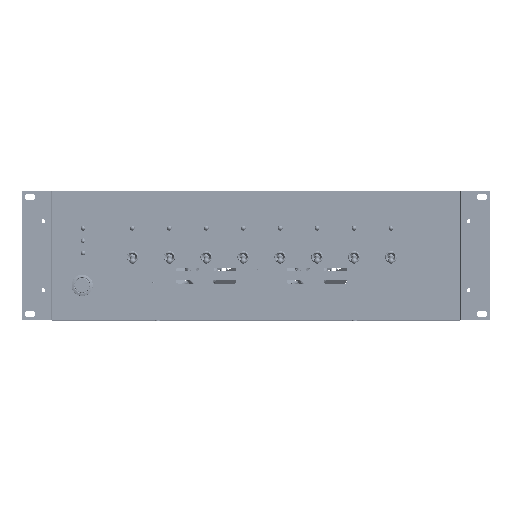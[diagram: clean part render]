
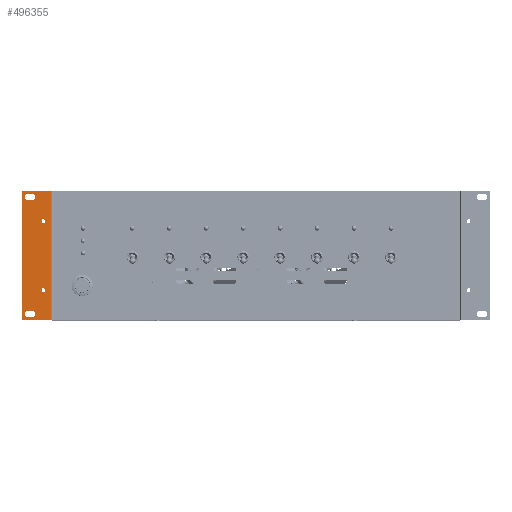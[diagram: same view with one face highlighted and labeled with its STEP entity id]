
A CAD part, top view. The second image highlights one B-rep face of the part: STEP entity #496355.
In plain terms, the highlighted planar face has unit normal (0, 0, 1).
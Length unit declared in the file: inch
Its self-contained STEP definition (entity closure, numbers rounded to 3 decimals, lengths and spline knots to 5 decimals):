
#1453 = EDGE_CURVE ( 'NONE', #296833, #418912, #98120, .T. ) ;
#23597 = CARTESIAN_POINT ( 'NONE',  ( -0.96102, 0.10357, 18. ) ) ;
#24363 = FACE_BOUND ( 'NONE', #624766, .T. ) ;
#29772 = VERTEX_POINT ( 'NONE', #719458 ) ;
#34951 = EDGE_CURVE ( 'NONE', #296833, #29772, #422895, .T. ) ;
#39915 = AXIS2_PLACEMENT_3D ( 'NONE', #510719, #514385, #672356 ) ;
#50973 = CARTESIAN_POINT ( 'NONE',  ( -0.2515, 4.00357, 18. ) ) ;
#54604 = VERTEX_POINT ( 'NONE', #50973 ) ;
#66824 = AXIS2_PLACEMENT_3D ( 'NONE', #169482, #393370, #114310 ) ;
#67360 = VECTOR ( 'NONE', #367865, 39.37008 ) ;
#76664 = CARTESIAN_POINT ( 'NONE',  ( -0.96102, 0.35357, 18. ) ) ;
#78922 = ORIENTED_EDGE ( 'NONE', *, *, #701674, .T. ) ;
#79731 = VECTOR ( 'NONE', #265751, 39.37008 ) ;
#82334 = LINE ( 'NONE', #258566, #79731 ) ;
#87567 = LINE ( 'NONE', #76664, #718888 ) ;
#93422 = AXIS2_PLACEMENT_3D ( 'NONE', #211691, #145540, #597109 ) ;
#93913 = CARTESIAN_POINT ( 'NONE',  ( -0.03937, -0.00643, 18. ) ) ;
#96985 = DIRECTION ( 'NONE',  ( 1., 0., 0. ) ) ;
#98120 = LINE ( 'NONE', #608399, #493169 ) ;
#105351 = DIRECTION ( 'NONE',  ( 1., 0., 0. ) ) ;
#113903 = ORIENTED_EDGE ( 'NONE', *, *, #363487, .T. ) ;
#114310 = DIRECTION ( 'NONE',  ( 1., 0., 0. ) ) ;
#123418 = CARTESIAN_POINT ( 'NONE',  ( -0.96102, 0.22857, 18. ) ) ;
#132698 = CARTESIAN_POINT ( 'NONE',  ( -0.78898, 4.85357, 18. ) ) ;
#140611 = LINE ( 'NONE', #309487, #435124 ) ;
#141095 = CARTESIAN_POINT ( 'NONE',  ( -0.96102, 0.35357, 18. ) ) ;
#145540 = DIRECTION ( 'NONE',  ( 0., 0., -1. ) ) ;
#155032 = VERTEX_POINT ( 'NONE', #23597 ) ;
#163444 = EDGE_CURVE ( 'NONE', #283123, #348737, #82334, .T. ) ;
#164906 = VECTOR ( 'NONE', #603970, 39.37008 ) ;
#167426 = ORIENTED_EDGE ( 'NONE', *, *, #280792, .F. ) ;
#169482 = CARTESIAN_POINT ( 'NONE',  ( -0.33, 1.20357, 18. ) ) ;
#189822 = FACE_OUTER_BOUND ( 'NONE', #459916, .T. ) ;
#193652 = VERTEX_POINT ( 'NONE', #268407 ) ;
#198322 = VERTEX_POINT ( 'NONE', #257420 ) ;
#201277 = ORIENTED_EDGE ( 'NONE', *, *, #320977, .T. ) ;
#211691 = CARTESIAN_POINT ( 'NONE',  ( -0.78898, 0.22857, 18. ) ) ;
#239084 = CARTESIAN_POINT ( 'NONE',  ( -0.78898, 5.10357, 18. ) ) ;
#243833 = EDGE_CURVE ( 'NONE', #198322, #655003, #562431, .T. ) ;
#243948 = CARTESIAN_POINT ( 'NONE',  ( -0.96102, 4.97857, 18. ) ) ;
#257420 = CARTESIAN_POINT ( 'NONE',  ( -0.78898, 0.35357, 18. ) ) ;
#258566 = CARTESIAN_POINT ( 'NONE',  ( -0.78898, 4.85357, 18. ) ) ;
#265751 = DIRECTION ( 'NONE',  ( -1., 0., 0. ) ) ;
#266198 = CARTESIAN_POINT ( 'NONE',  ( -1.2, -0.00643, 18. ) ) ;
#267732 = EDGE_CURVE ( 'NONE', #348737, #193652, #384331, .T. ) ;
#268407 = CARTESIAN_POINT ( 'NONE',  ( -0.96102, 5.10357, 18. ) ) ;
#268765 = ORIENTED_EDGE ( 'NONE', *, *, #680568, .T. ) ;
#272824 = ORIENTED_EDGE ( 'NONE', *, *, #609365, .T. ) ;
#276662 = EDGE_CURVE ( 'NONE', #718977, #718977, #383400, .T. ) ;
#280792 = EDGE_CURVE ( 'NONE', #418912, #309960, #140611, .T. ) ;
#283123 = VERTEX_POINT ( 'NONE', #132698 ) ;
#296833 = VERTEX_POINT ( 'NONE', #596436 ) ;
#302592 = DIRECTION ( 'NONE',  ( 0., 0., -1. ) ) ;
#309487 = CARTESIAN_POINT ( 'NONE',  ( -0.03937, 5.21357, 18. ) ) ;
#309960 = VERTEX_POINT ( 'NONE', #93913 ) ;
#313535 = LINE ( 'NONE', #530251, #522928 ) ;
#315135 = EDGE_LOOP ( 'NONE', ( #393453 ) ) ;
#317706 = EDGE_LOOP ( 'NONE', ( #431527, #78922, #685625, #515505 ) ) ;
#320977 = EDGE_CURVE ( 'NONE', #655003, #155032, #702916, .T. ) ;
#325122 = DIRECTION ( 'NONE',  ( 0., 1., 0. ) ) ;
#348737 = VERTEX_POINT ( 'NONE', #635612 ) ;
#349610 = CARTESIAN_POINT ( 'NONE',  ( -0.78898, 0.10357, 18. ) ) ;
#359322 = DIRECTION ( 'NONE',  ( 1., 0., 0. ) ) ;
#363487 = EDGE_CURVE ( 'NONE', #597992, #198322, #87567, .T. ) ;
#367865 = DIRECTION ( 'NONE',  ( 0., -1., 0. ) ) ;
#369306 = VECTOR ( 'NONE', #596426, 39.37008 ) ;
#383400 = CIRCLE ( 'NONE', #66824, 0.0785 ) ;
#383826 = CARTESIAN_POINT ( 'NONE',  ( -1.2, 5.21357, 18. ) ) ;
#384331 = CIRCLE ( 'NONE', #619092, 0.125 ) ;
#393370 = DIRECTION ( 'NONE',  ( 0., 0., -1. ) ) ;
#393453 = ORIENTED_EDGE ( 'NONE', *, *, #575410, .T. ) ;
#409326 = AXIS2_PLACEMENT_3D ( 'NONE', #123418, #667149, #564093 ) ;
#413585 = PLANE ( 'NONE',  #433750 ) ;
#418912 = VERTEX_POINT ( 'NONE', #489235 ) ;
#422895 = LINE ( 'NONE', #646996, #67360 ) ;
#424522 = ORIENTED_EDGE ( 'NONE', *, *, #34951, .T. ) ;
#431527 = ORIENTED_EDGE ( 'NONE', *, *, #267732, .T. ) ;
#431570 = DIRECTION ( 'NONE',  ( 0., 0., 1. ) ) ;
#433750 = AXIS2_PLACEMENT_3D ( 'NONE', #383826, #431570, #325122 ) ;
#434622 = DIRECTION ( 'NONE',  ( 0., 0., -1. ) ) ;
#435124 = VECTOR ( 'NONE', #540713, 39.37008 ) ;
#443568 = CARTESIAN_POINT ( 'NONE',  ( -0.2515, 1.20357, 18. ) ) ;
#459916 = EDGE_LOOP ( 'NONE', ( #268765, #167426, #543884, #424522 ) ) ;
#468653 = FACE_BOUND ( 'NONE', #315135, .T. ) ;
#472245 = FACE_BOUND ( 'NONE', #317706, .T. ) ;
#486131 = CARTESIAN_POINT ( 'NONE',  ( -0.33, 4.00357, 18. ) ) ;
#489235 = CARTESIAN_POINT ( 'NONE',  ( -0.03937, 5.21357, 18. ) ) ;
#493169 = VECTOR ( 'NONE', #105351, 39.37008 ) ;
#496355 = ADVANCED_FACE ( 'NONE', ( #472245, #24363, #468653, #593280, #189822 ), #413585, .T. ) ;
#510719 = CARTESIAN_POINT ( 'NONE',  ( -0.78898, 4.97857, 18. ) ) ;
#514385 = DIRECTION ( 'NONE',  ( 0., 0., -1. ) ) ;
#515505 = ORIENTED_EDGE ( 'NONE', *, *, #163444, .T. ) ;
#522928 = VECTOR ( 'NONE', #699022, 39.37008 ) ;
#530251 = CARTESIAN_POINT ( 'NONE',  ( -0.96102, 5.10357, 18. ) ) ;
#540713 = DIRECTION ( 'NONE',  ( 0., -1., 0. ) ) ;
#541108 = EDGE_CURVE ( 'NONE', #606022, #283123, #696086, .T. ) ;
#543884 = ORIENTED_EDGE ( 'NONE', *, *, #1453, .F. ) ;
#562431 = CIRCLE ( 'NONE', #93422, 0.125 ) ;
#564093 = DIRECTION ( 'NONE',  ( 0., -1., 0. ) ) ;
#575410 = EDGE_CURVE ( 'NONE', #54604, #54604, #651484, .T. ) ;
#581898 = CARTESIAN_POINT ( 'NONE',  ( -0.78898, 0.10357, 18. ) ) ;
#593280 = FACE_BOUND ( 'NONE', #680771, .T. ) ;
#596426 = DIRECTION ( 'NONE',  ( -1., 0., 0. ) ) ;
#596436 = CARTESIAN_POINT ( 'NONE',  ( -1.2, 5.21357, 18. ) ) ;
#596967 = CIRCLE ( 'NONE', #409326, 0.125 ) ;
#597109 = DIRECTION ( 'NONE',  ( 0., 1., 0. ) ) ;
#597992 = VERTEX_POINT ( 'NONE', #141095 ) ;
#603970 = DIRECTION ( 'NONE',  ( 1., 0., 0. ) ) ;
#605868 = ORIENTED_EDGE ( 'NONE', *, *, #243833, .T. ) ;
#606022 = VERTEX_POINT ( 'NONE', #239084 ) ;
#608399 = CARTESIAN_POINT ( 'NONE',  ( -1.2, 5.21357, 18. ) ) ;
#609365 = EDGE_CURVE ( 'NONE', #155032, #597992, #596967, .T. ) ;
#619092 = AXIS2_PLACEMENT_3D ( 'NONE', #243948, #302592, #695278 ) ;
#624766 = EDGE_LOOP ( 'NONE', ( #113903, #605868, #201277, #272824 ) ) ;
#635612 = CARTESIAN_POINT ( 'NONE',  ( -0.96102, 4.85357, 18. ) ) ;
#646996 = CARTESIAN_POINT ( 'NONE',  ( -1.2, 5.21357, 18. ) ) ;
#651484 = CIRCLE ( 'NONE', #653148, 0.0785 ) ;
#653148 = AXIS2_PLACEMENT_3D ( 'NONE', #486131, #434622, #96985 ) ;
#655003 = VERTEX_POINT ( 'NONE', #349610 ) ;
#665943 = ORIENTED_EDGE ( 'NONE', *, *, #276662, .T. ) ;
#667149 = DIRECTION ( 'NONE',  ( 0., 0., -1. ) ) ;
#672356 = DIRECTION ( 'NONE',  ( 0., 1., 0. ) ) ;
#680568 = EDGE_CURVE ( 'NONE', #29772, #309960, #706807, .T. ) ;
#680771 = EDGE_LOOP ( 'NONE', ( #665943 ) ) ;
#685625 = ORIENTED_EDGE ( 'NONE', *, *, #541108, .T. ) ;
#695278 = DIRECTION ( 'NONE',  ( 0., -1., 0. ) ) ;
#696086 = CIRCLE ( 'NONE', #39915, 0.125 ) ;
#699022 = DIRECTION ( 'NONE',  ( 1., 0., 0. ) ) ;
#701674 = EDGE_CURVE ( 'NONE', #193652, #606022, #313535, .T. ) ;
#702916 = LINE ( 'NONE', #581898, #369306 ) ;
#706807 = LINE ( 'NONE', #266198, #164906 ) ;
#718888 = VECTOR ( 'NONE', #359322, 39.37008 ) ;
#718977 = VERTEX_POINT ( 'NONE', #443568 ) ;
#719458 = CARTESIAN_POINT ( 'NONE',  ( -1.2, -0.00643, 18. ) ) ;
